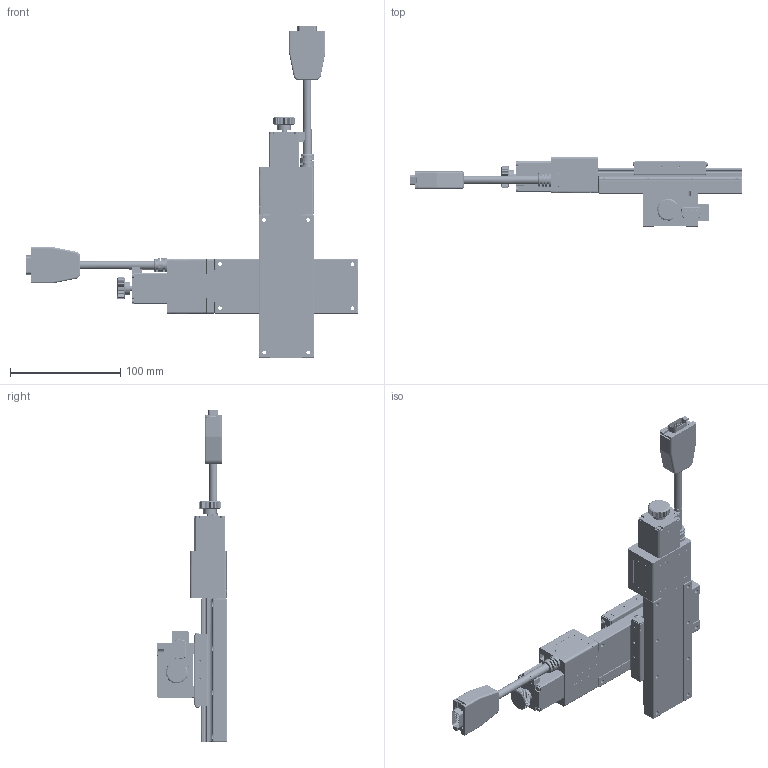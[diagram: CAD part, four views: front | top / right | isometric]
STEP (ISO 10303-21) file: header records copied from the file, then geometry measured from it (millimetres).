
FILE_DESCRIPTION (( 'STEP AP203' ), '1' );
FILE_NAME ('CYN5050-S2?N.STEP', '2023-10-02T00:30:43', ( '' ), ( '' ), 'SwSTEP 2.0', 'SolidWorks 2019', '' );
FILE_SCHEMA (( 'CONFIG_CONTROL_DESIGN' ));
Length unit declared in the file: millimetre
Products named in the file (5): CYN5050-S2?N; Group1^CXN5050-S2_N(2023_s__)_defeature_GMT.STEP_GMT; CXN5050-S2?N.STEP; Group2^CXN5050-S2_N(2023_s__)_defeature_GMT.STEP_GMT
Assembly tree (6 placements, depth 3):
  CYN5050-S2?N
    CXN5050-S2?N.STEP
      Group1^CXN5050-S2_N(2023_s__)_defeature_GMT.STEP_GMT
      Group2^CXN5050-S2_N(2023_s__)_defeature_GMT.STEP_GMT
    CXN5050-S2?N.STEP
      Group1^CXN5050-S2_N(2023_s__)_defeature_GMT.STEP_GMT
      Group2^CXN5050-S2_N(2023_s__)_defeature_GMT.STEP_GMT
Bounding box: 300.6 x 63.5 x 300.6 mm (x, y, z)
Surface area: 171621.1 mm2 (no closed solid volume)
Topology: 0 solids, 60 shells, 6682 faces, 17900 edges, 11088 vertices
Faces by surface type: plane 2978, cylinder 1996, torus 678, bspline 560, cone 274, sphere 196
Entity records: 130159 total; most frequent: CARTESIAN_POINT 61196, ORIENTED_EDGE 17273, DIRECTION 9315, EDGE_CURVE 8770, B_SPLINE_CURVE_WITH_KNOTS 6562, VERTEX_POINT 5539, AXIS2_PLACEMENT_3D 4141, EDGE_LOOP 3570
